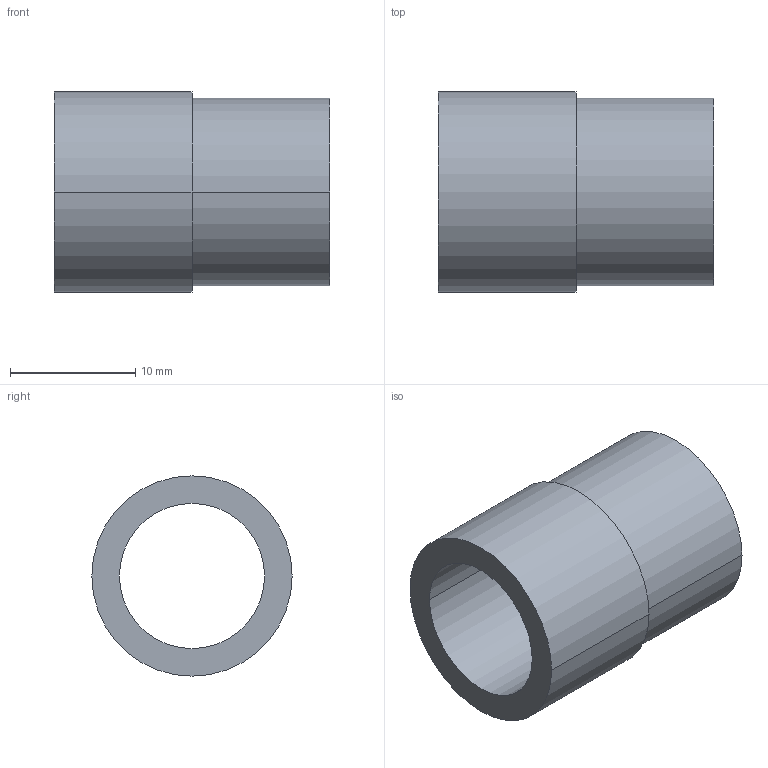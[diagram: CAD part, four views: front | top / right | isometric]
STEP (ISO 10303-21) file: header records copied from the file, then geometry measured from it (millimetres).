
FILE_DESCRIPTION(('Creo Elements/Direct Modeling STEP Export'),'2;1');
FILE_NAME('H05-0034-CL903_G13-11.stp','2012-02-15T14:44:11',(''),(''),'Creo Elements/Direct Modeling STEP processor for AP214 (Solid Model)','Creo Elements/Direct Modeling 18.0B 02-Dec-2011 (C) Parametric Technology GmbH','');
FILE_SCHEMA(('AUTOMOTIVE_DESIGN { 1 0 10303 214 1 1 1 1 }'));
Length unit declared in the file: millimetre
Products named in the file (1): G13-11
Bounding box: 22 x 16 x 16 mm (x, y, z)
Volume: 1830.5 mm3; surface area: 2063.8 mm2
Topology: 1 solids, 1 shells, 9 faces, 18 edges, 12 vertices
Faces by surface type: cylinder 6, plane 3
Entity records: 240 total; most frequent: DIRECTION 38, ORIENTED_EDGE 36, CARTESIAN_POINT 34, EDGE_CURVE 18, AXIS2_PLACEMENT_3D 16, VERTEX_POINT 12, EDGE_LOOP 12, FACE_OUTER_BOUND 9
